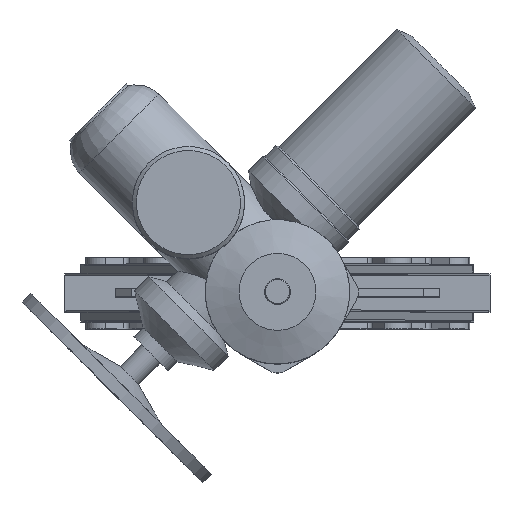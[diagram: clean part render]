
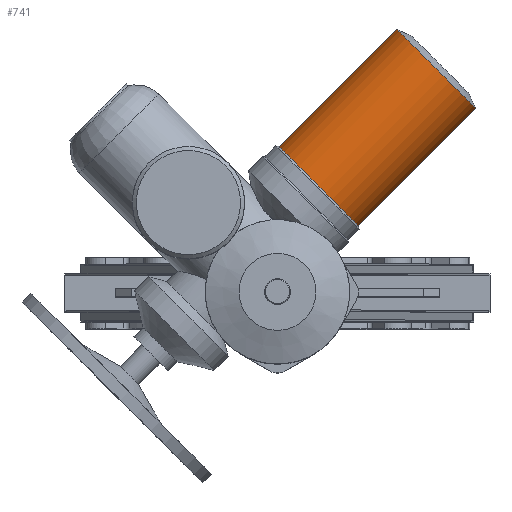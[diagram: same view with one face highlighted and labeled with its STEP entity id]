
A CAD part, top view. The second image highlights one B-rep face of the part: STEP entity #741.
In plain terms, the highlighted cylindrical face has radius 70 mm (diameter 140 mm), a full revolution.
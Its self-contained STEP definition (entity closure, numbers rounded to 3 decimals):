
#741=ADVANCED_FACE('',(#3813,#3815),#3817,.T.);
#3813=FACE_OUTER_BOUND('',#3814,.T.);
#3814=EDGE_LOOP('',(#6225));
#3815=FACE_OUTER_BOUND('',#3816,.T.);
#3816=EDGE_LOOP('',(#6226));
#3817=CYLINDRICAL_SURFACE('',#3818,70.);
#3818=AXIS2_PLACEMENT_3D('',#3819,#3820,#3821);
#3819=CARTESIAN_POINT('',(197.792,278.403,1047.));
#3820=DIRECTION('',(-0.707,-0.707,0.));
#3821=DIRECTION('',(0.,0.,1.));
#6225=ORIENTED_EDGE('',*,*,#7858,.T.);
#6226=ORIENTED_EDGE('',*,*,#7819,.F.);
#7819=EDGE_CURVE('',#8830,#8830,#8831,.T.);
#7858=EDGE_CURVE('',#8900,#8900,#8901,.T.);
#8830=VERTEX_POINT('',#11626);
#8831=CIRCLE('',#11627,70.);
#8900=VERTEX_POINT('',#11781);
#8901=CIRCLE('',#11782,70.);
#11626=CARTESIAN_POINT('',(51.482,132.093,1117.));
#11627=AXIS2_PLACEMENT_3D('',#11628,#11629,#11630);
#11628=CARTESIAN_POINT('',(51.482,132.093,1047.));
#11629=DIRECTION('',(-0.707,-0.707,0.));
#11630=DIRECTION('',(0.,0.,1.));
#11781=CARTESIAN_POINT('',(197.792,278.403,1117.));
#11782=AXIS2_PLACEMENT_3D('',#11783,#11784,#11785);
#11783=CARTESIAN_POINT('',(197.792,278.403,1047.));
#11784=DIRECTION('',(-0.707,-0.707,0.));
#11785=DIRECTION('',(0.,0.,1.));
